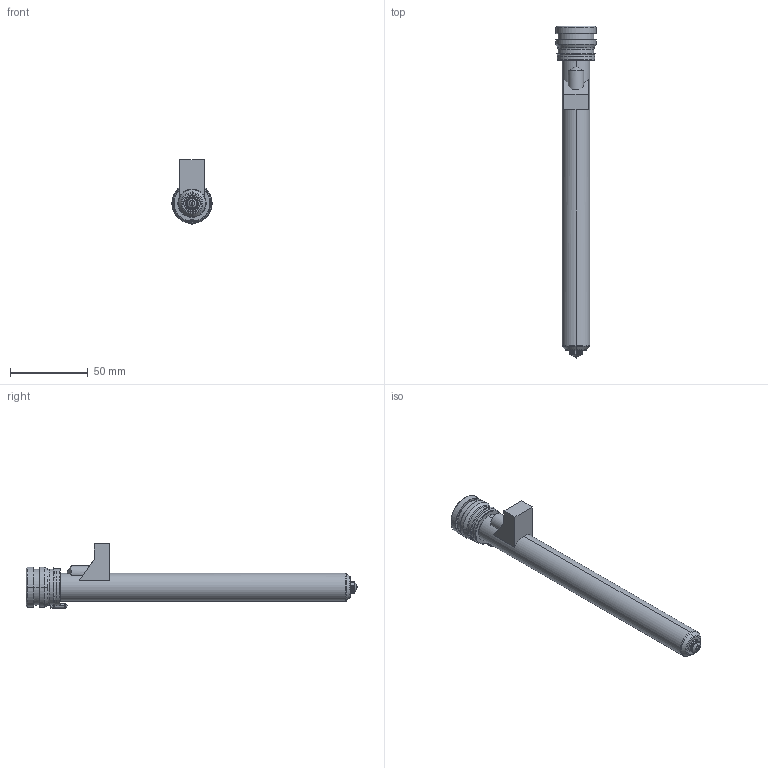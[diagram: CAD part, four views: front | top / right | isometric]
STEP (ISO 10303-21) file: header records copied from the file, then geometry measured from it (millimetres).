
FILE_DESCRIPTION((''),'2;1');
FILE_NAME('MPN-08-24-VS8-196-M','2026-02-05T13:30:23',('UPTIO'),('Thermoplay S.p.A.'),'CREO PARAMETRIC BY PTC INC, 2023494','CREO PARAMETRIC BY PTC INC, 2023494','');
FILE_SCHEMA(('CONFIG_CONTROL_DESIGN','SHAPE_APPEARANCE_LAYERS_GROUPS'));
Length unit declared in the file: millimetre
Products named in the file (1): MPN-08-24-VS8-196-M
Bounding box: 26 x 214 x 41.5 mm (x, y, z)
Volume: 39791 mm3; surface area: 53587.9 mm2
Topology: 2 solids, 3 shells, 527 faces, 1368 edges, 840 vertices
Faces by surface type: cylinder 174, plane 143, bspline 77, torus 60, cone 58, sphere 9, extrusion 6
Entity records: 27294 total; most frequent: CARTESIAN_POINT 11834, ORIENTED_EDGE 2718, DIRECTION 2485, EDGE_CURVE 1359, AXIS2_PLACEMENT_3D 971, VERTEX_POINT 840, EDGE_LOOP 557, VECTOR 543
